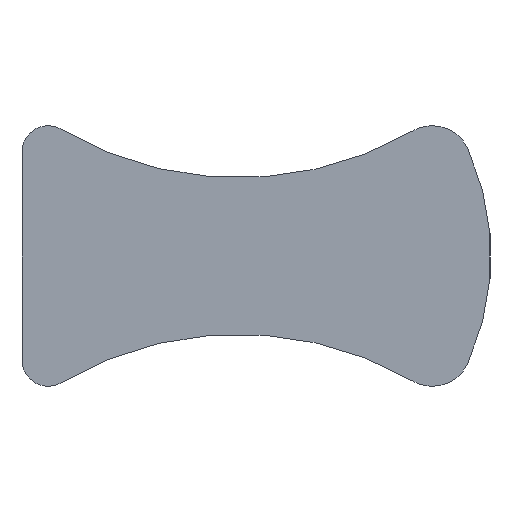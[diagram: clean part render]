
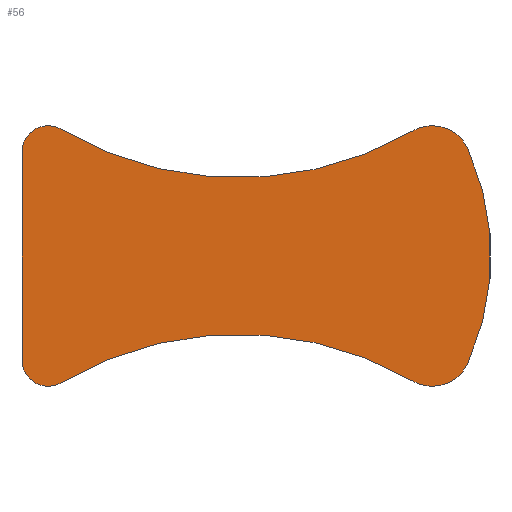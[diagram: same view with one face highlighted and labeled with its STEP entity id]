
A CAD part, left-side view. The second image highlights one B-rep face of the part: STEP entity #56.
In plain terms, the highlighted planar face has unit normal (-1, 0, 0).
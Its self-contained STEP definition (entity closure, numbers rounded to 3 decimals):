
#56 = ADVANCED_FACE( '', ( #111 ), #112, .F. );
#111 = FACE_OUTER_BOUND( '', #164, .T. );
#112 = PLANE( '', #165 );
#164 = EDGE_LOOP( '', ( #251, #252, #253, #254, #255, #256, #257, #258 ) );
#165 = AXIS2_PLACEMENT_3D( '', #259, #260, #261 );
#251 = ORIENTED_EDGE( '', *, *, #327, .F. );
#252 = ORIENTED_EDGE( '', *, *, #315, .F. );
#253 = ORIENTED_EDGE( '', *, *, #307, .T. );
#254 = ORIENTED_EDGE( '', *, *, #322, .F. );
#255 = ORIENTED_EDGE( '', *, *, #328, .F. );
#256 = ORIENTED_EDGE( '', *, *, #311, .F. );
#257 = ORIENTED_EDGE( '', *, *, #318, .T. );
#258 = ORIENTED_EDGE( '', *, *, #329, .F. );
#259 = CARTESIAN_POINT( '', ( -12., -1., 4. ) );
#260 = DIRECTION( '', ( 1., 0., 0. ) );
#261 = DIRECTION( '', ( 0., 0., -1. ) );
#307 = EDGE_CURVE( '', #359, #360, #361, .T. );
#311 = EDGE_CURVE( '', #365, #366, #367, .T. );
#315 = EDGE_CURVE( '', #359, #371, #372, .T. );
#318 = EDGE_CURVE( '', #365, #375, #376, .T. );
#322 = EDGE_CURVE( '', #380, #360, #381, .T. );
#327 = EDGE_CURVE( '', #371, #387, #388, .T. );
#328 = EDGE_CURVE( '', #366, #380, #389, .T. );
#329 = EDGE_CURVE( '', #387, #375, #390, .T. );
#359 = VERTEX_POINT( '', #422 );
#360 = VERTEX_POINT( '', #423 );
#361 = CIRCLE( '', #424, 13.34 );
#365 = VERTEX_POINT( '', #430 );
#366 = VERTEX_POINT( '', #431 );
#367 = CIRCLE( '', #432, 1.5 );
#371 = VERTEX_POINT( '', #438 );
#372 = CIRCLE( '', #439, 1. );
#375 = VERTEX_POINT( '', #443 );
#376 = CIRCLE( '', #444, 13.34 );
#380 = VERTEX_POINT( '', #449 );
#381 = CIRCLE( '', #450, 1.5 );
#387 = VERTEX_POINT( '', #457 );
#388 = LINE( '', #458, #459 );
#389 = CIRCLE( '', #460, 10. );
#390 = CIRCLE( '', #461, 1. );
#422 = CARTESIAN_POINT( '', ( -12., -1.509, -4.861 ) );
#423 = CARTESIAN_POINT( '', ( -12., -14.994, -4.798 ) );
#424 = AXIS2_PLACEMENT_3D( '', #498, #499, #500 );
#430 = CARTESIAN_POINT( '', ( -12., -14.994, 4.798 ) );
#431 = CARTESIAN_POINT( '', ( -12., -17.113, 4.118 ) );
#432 = AXIS2_PLACEMENT_3D( '', #503, #504, #505 );
#438 = CARTESIAN_POINT( '', ( -12., 0., -4. ) );
#439 = AXIS2_PLACEMENT_3D( '', #508, #509, #510 );
#443 = CARTESIAN_POINT( '', ( -12., -1.509, 4.861 ) );
#444 = AXIS2_PLACEMENT_3D( '', #512, #513, #514 );
#449 = CARTESIAN_POINT( '', ( -12., -17.113, -4.118 ) );
#450 = AXIS2_PLACEMENT_3D( '', #516, #517, #518 );
#457 = CARTESIAN_POINT( '', ( -12., 0., 4. ) );
#458 = CARTESIAN_POINT( '', ( -12., 0., -4. ) );
#459 = VECTOR( '', #523, 1000. );
#460 = AXIS2_PLACEMENT_3D( '', #524, #525, #526 );
#461 = AXIS2_PLACEMENT_3D( '', #527, #528, #529 );
#498 = CARTESIAN_POINT( '', ( -12., -8.305, -16.34 ) );
#499 = DIRECTION( '', ( 1., 0., 0. ) );
#500 = DIRECTION( '', ( 0., 0., -1. ) );
#503 = CARTESIAN_POINT( '', ( -12., -15.746, 3.5 ) );
#504 = DIRECTION( '', ( 1., 0., 0. ) );
#505 = DIRECTION( '', ( 0., 0., -1. ) );
#508 = CARTESIAN_POINT( '', ( -12., -1., -4. ) );
#509 = DIRECTION( '', ( 1., 0., 0. ) );
#510 = DIRECTION( '', ( 0., 0., -1. ) );
#512 = CARTESIAN_POINT( '', ( -12., -8.305, 16.34 ) );
#513 = DIRECTION( '', ( 1., 0., 0. ) );
#514 = DIRECTION( '', ( 0., 0., -1. ) );
#516 = CARTESIAN_POINT( '', ( -12., -15.746, -3.5 ) );
#517 = DIRECTION( '', ( 1., 0., 0. ) );
#518 = DIRECTION( '', ( 0., 0., -1. ) );
#523 = DIRECTION( '', ( 0., 0., 1. ) );
#524 = CARTESIAN_POINT( '', ( -12., -8., 0. ) );
#525 = DIRECTION( '', ( 1., 0., 0. ) );
#526 = DIRECTION( '', ( 0., 0., -1. ) );
#527 = CARTESIAN_POINT( '', ( -12., -1., 4. ) );
#528 = DIRECTION( '', ( 1., 0., 0. ) );
#529 = DIRECTION( '', ( 0., 0., -1. ) );
